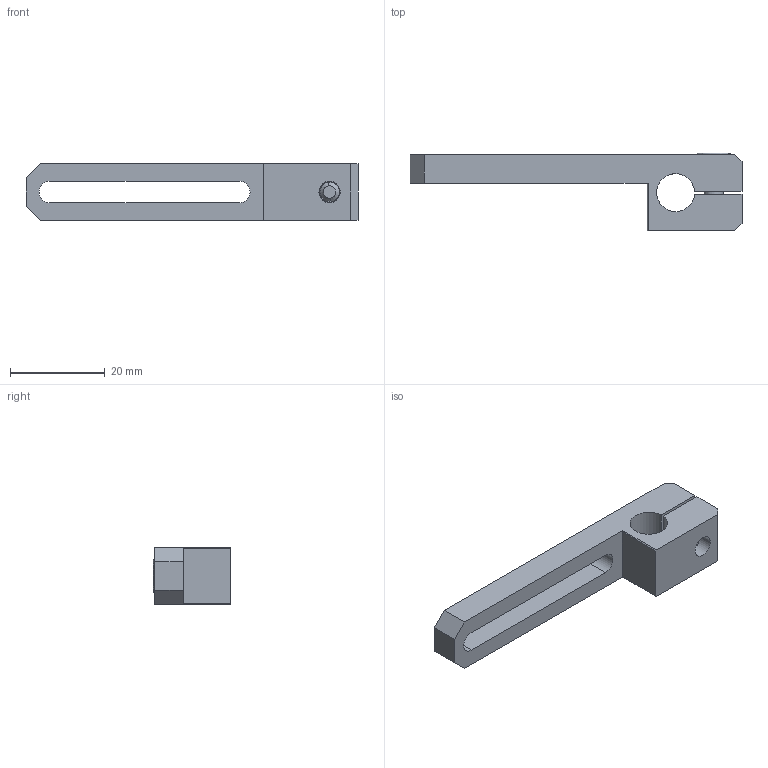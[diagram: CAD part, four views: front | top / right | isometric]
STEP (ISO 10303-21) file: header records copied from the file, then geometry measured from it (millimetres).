
FILE_DESCRIPTION (( 'STEP AP214' ), '1' );
FILE_NAME ('SCF5-0840W12T.STEP', '2023-01-17T06:37:35', ( 'Windows User' ), ( 'P R C' ), 'SwSTEP 2.0', 'SolidWorks 2019', '' );
FILE_SCHEMA (( 'AUTOMOTIVE_DESIGN' ));
Length unit declared in the file: millimetre
Products named in the file (1): SCF5-0840W12T
Bounding box: 70 x 16.3 x 12 mm (x, y, z)
Volume: 5327.6 mm3; surface area: 4427.1 mm2
Topology: 3 solids, 3 shells, 243 faces, 700 edges, 463 vertices
Faces by surface type: plane 222, cylinder 17, cone 2, bspline 2
Entity records: 10855 total; most frequent: CARTESIAN_POINT 1531, DIRECTION 1403, ORIENTED_EDGE 1400, EDGE_CURVE 700, VECTOR 473, LINE 473, AXIS2_PLACEMENT_3D 465, VERTEX_POINT 463
